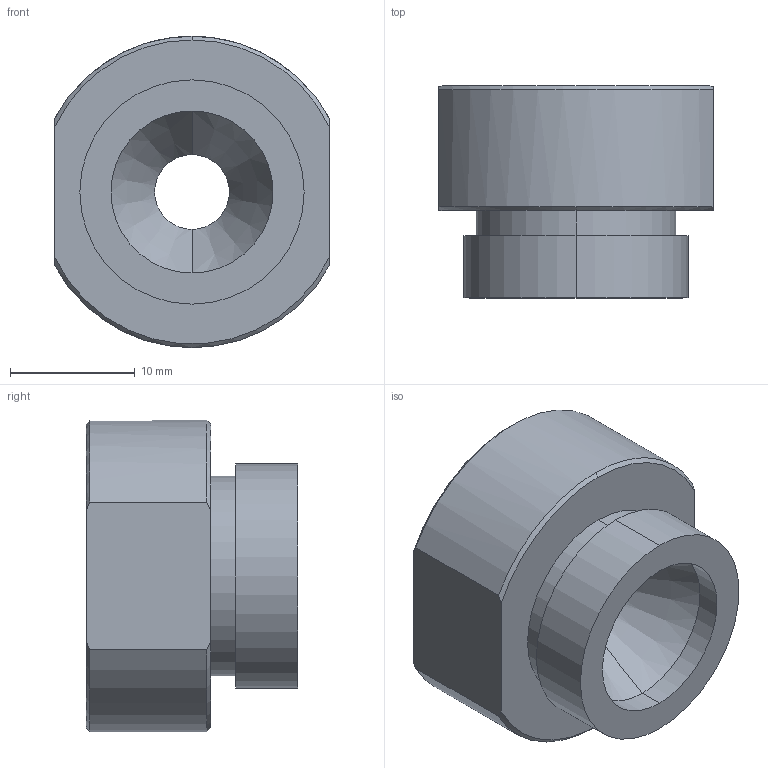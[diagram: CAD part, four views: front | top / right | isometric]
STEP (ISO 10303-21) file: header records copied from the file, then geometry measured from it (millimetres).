
FILE_DESCRIPTION (( 'STEP AP203' ), '1' );
FILE_NAME ('SW-PN-C5A.STEP', '2022-04-06T02:20:13', ( '' ), ( '' ), 'SwSTEP 2.0', 'SolidWorks 2015', '' );
FILE_SCHEMA (( 'CONFIG_CONTROL_DESIGN' ));
Length unit declared in the file: millimetre
Products named in the file (2): SW-PN-C5A
Bounding box: 22 x 17 x 25 mm (x, y, z)
Volume: 5375.9 mm3; surface area: 2473.1 mm2
Topology: 1 solids, 1 shells, 27 faces, 62 edges, 39 vertices
Faces by surface type: cylinder 11, cone 10, plane 6
Entity records: 938 total; most frequent: CARTESIAN_POINT 154, DIRECTION 143, ORIENTED_EDGE 124, EDGE_CURVE 62, AXIS2_PLACEMENT_3D 60, VERTEX_POINT 39, CIRCLE 31, EDGE_LOOP 31
